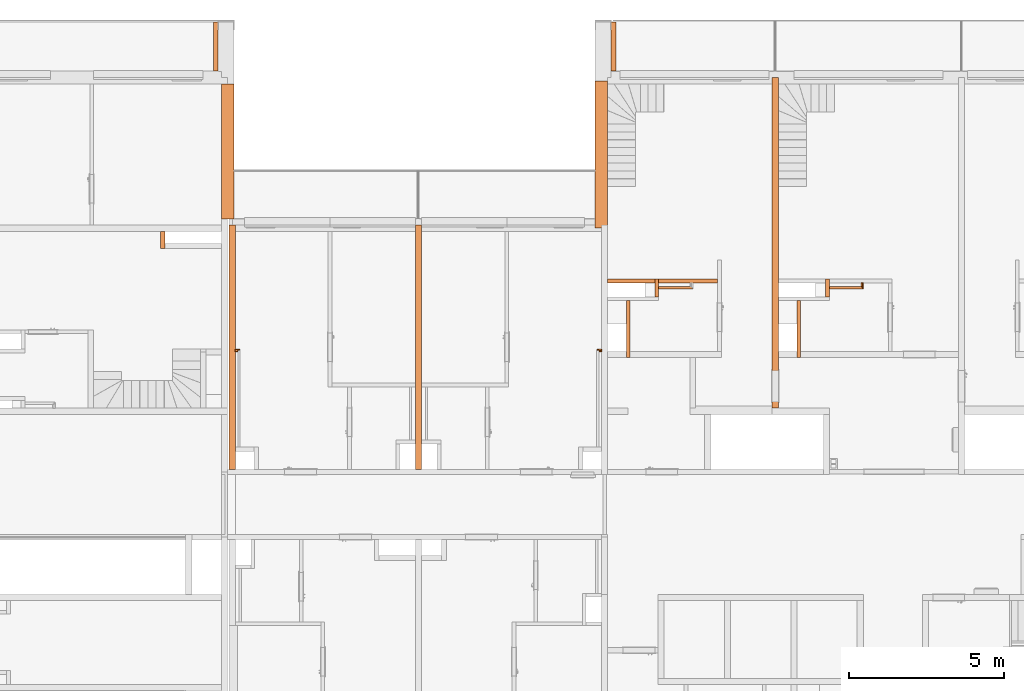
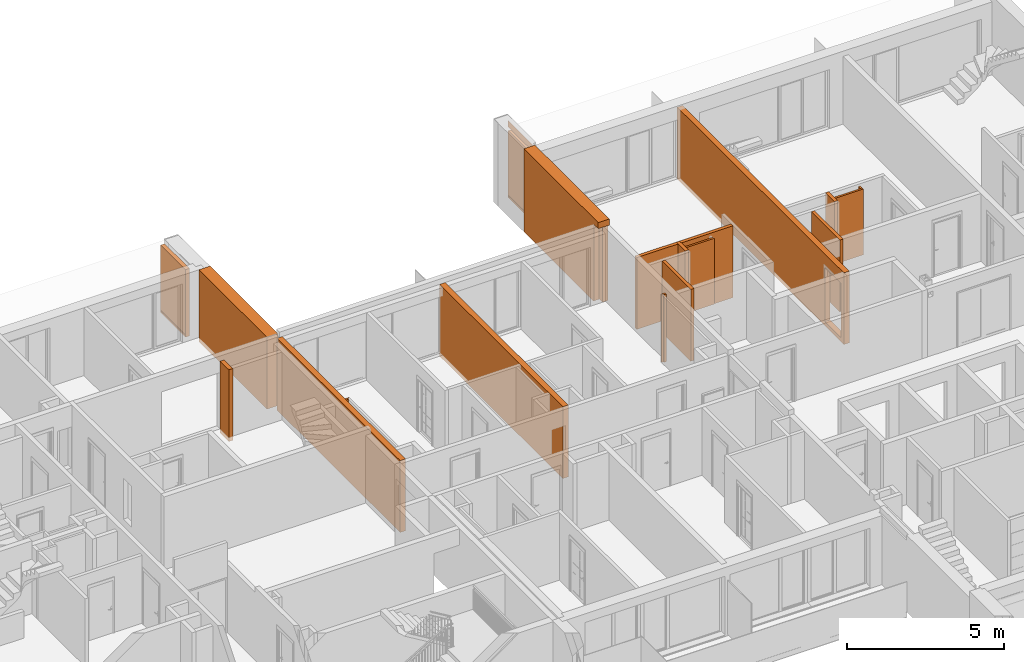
# One storey, part 56 of 61: 18 proxies, 1 opening.
"""IFC2X3 building model written with IfcOpenShell, lengths in millimetres."""

import ifcopenshell
import ifcopenshell.guid

model = None  # the IFC model being written
_history = None  # IfcOwnerHistory: only IFC2X3 demands one
_inside = {}  # id of a spatial element -> (the spatial element, [elements in it])
_under = {}  # id of a project, library or spatial element -> (it, [spatial elements below it])
_declared = {}  # id of a project -> (the project, [libraries it declares])
_typed = {}  # id of a type object -> (the type object, [elements of that type])
_made_of = {}  # id of a material, layer set ... -> (it, [elements and type objects made of it])


def new_model(schema):
    """Start an empty IFC model of exactly this schema.

    Asked for "IFC4X3", IfcOpenShell would pick the latest addendum, in which some entities
    have other attributes; the version numbers below select the first issue.
    IFC2X3 requires an IfcOwnerHistory on every rooted entity: one is made here for all.
    """
    global model, _history
    if schema == "IFC4X3":
        model = ifcopenshell.file(schema_version=(4, 3, 0, 0))
    else:
        model = ifcopenshell.file(schema=schema)
    _inside.clear()
    _under.clear()
    _declared.clear()
    _typed.clear()
    _made_of.clear()
    _history = None
    if model.schema == "IFC2X3":
        org = make("IfcOrganization", Name="unknown")
        user = make(
            "IfcPersonAndOrganization",
            ThePerson=make("IfcPerson", FamilyName="unknown"),
            TheOrganization=org,
        )
        app = make(
            "IfcApplication",
            ApplicationDeveloper=org,
            Version="unknown",
            ApplicationFullName="unknown",
            ApplicationIdentifier="unknown",
        )
        _history = make(
            "IfcOwnerHistory",
            OwningUser=user,
            OwningApplication=app,
            ChangeAction="ADDED",
            CreationDate=0,
        )
    return model


def make(cls, **values):
    """One entity of the class cls with the attributes given. An attribute that is None is left unset."""
    return model.create_entity(
        cls, **{name: value for name, value in values.items() if value is not None}
    )


def entity(cls, *values):
    """Any entity or typed value of the class cls, its attributes in the order of the schema. None: left unset."""
    e = model.create_entity(cls)
    for i, value in enumerate(values):
        if value is not None:
            e[i] = value
    return e


def rooted(cls, **values):
    """An entity with a GlobalId (a new one), such as an element, a storey or a relation."""
    return make(cls, GlobalId=ifcopenshell.guid.new(), OwnerHistory=_history, **values)


def si_unit(unit_type, name, prefix=None):
    """IfcSIUnit, for example si_unit("LENGTHUNIT", "METRE", prefix="MILLI")."""
    return make("IfcSIUnit", UnitType=unit_type, Prefix=prefix, Name=name)


def converted_unit(unit_type, name, factor, base, dimensions=None, offset=None):
    """IfcConversionBasedUnit, such as the inch: factor (a typed value) times the base unit."""
    return make(
        "IfcConversionBasedUnit"
        if offset is None
        else "IfcConversionBasedUnitWithOffset",
        ConversionOffset=offset,
        Dimensions=None
        if dimensions is None
        else entity("IfcDimensionalExponents", *dimensions),
        UnitType=unit_type,
        Name=name,
        ConversionFactor=make(
            "IfcMeasureWithUnit", ValueComponent=factor, UnitComponent=base
        ),
    )


def derived_unit(unit_type, elements):
    """IfcDerivedUnit: a product of units, each with its exponent."""
    return make(
        "IfcDerivedUnit",
        Elements=[
            make("IfcDerivedUnitElement", Unit=unit, Exponent=power)
            for unit, power in elements
        ],
        UnitType=unit_type,
    )


def money_unit(currency):
    """IfcMonetaryUnit."""
    return make("IfcMonetaryUnit", Currency=currency)


def assignment(units):
    """IfcUnitAssignment: the units of a project."""
    return None if units is None else make("IfcUnitAssignment", Units=units)


def point(xyz):
    """IfcCartesianPoint."""
    return None if xyz is None else make("IfcCartesianPoint", Coordinates=xyz)


def direction(xyz):
    """IfcDirection."""
    return None if xyz is None else make("IfcDirection", DirectionRatios=xyz)


def frame(location, z_axis=None, x_axis=None):
    """IfcAxis2Placement3D, a coordinate frame: its origin and axes. An axis left out is left unset."""
    return make(
        "IfcAxis2Placement3D",
        Location=point(location),
        Axis=direction(z_axis),
        RefDirection=direction(x_axis),
    )


def frame_2d(location, x_axis=None):
    """IfcAxis2Placement2D, a coordinate frame in the plane: its origin and x axis."""
    return make(
        "IfcAxis2Placement2D", Location=point(location), RefDirection=direction(x_axis)
    )


def origin_with_axes():
    """The frame at (0, 0, 0) with the z axis (0, 0, 1) and the x axis (1, 0, 0) written out."""
    return frame((0.0, 0.0, 0.0), z_axis=(0.0, 0.0, 1.0), x_axis=(1.0, 0.0, 0.0))


def origin_2d_with_axis():
    """The frame at (0, 0) in the plane with the x axis (1, 0) written out."""
    return frame_2d((0.0, 0.0), x_axis=(1.0, 0.0))


def place(relative_to, where):
    """IfcLocalPlacement: puts the frame where relative to a parent placement (None: the world)."""
    return make(
        "IfcLocalPlacement", PlacementRelTo=relative_to, RelativePlacement=where
    )


def context(
    kind, dimensions, precision=None, world=None, true_north=None, identifier=None
):
    """IfcGeometricRepresentationContext, for example the 3D "Model" context."""
    return make(
        "IfcGeometricRepresentationContext",
        ContextIdentifier=identifier,
        ContextType=kind,
        CoordinateSpaceDimension=dimensions,
        Precision=precision,
        WorldCoordinateSystem=world,
        TrueNorth=true_north,
    )


def subcontext(parent, identifier, kind, view, scale=None):
    """IfcGeometricRepresentationSubContext, for example "Body" below "Model"."""
    return make(
        "IfcGeometricRepresentationSubContext",
        ContextIdentifier=identifier,
        ContextType=kind,
        ParentContext=parent,
        TargetScale=scale,
        TargetView=view,
    )


def project(units=None, contexts=None):
    """IfcProject with its units and contexts."""
    return rooted(
        "IfcProject",
        Name="project",
        RepresentationContexts=contexts,
        UnitsInContext=assignment(units),
    )


def spatial(cls, under=None, at=None, **own):
    """A site, building, storey or space (cls), placed at a placement, below another one or the project."""
    s = rooted(cls, ObjectPlacement=at, **own)
    if under is not None:
        _under.setdefault(under.id(), (under, []))[1].append(s)
    return s


def profile(cls, at=None, kind="AREA", **sizes):
    """A parametric profile (cls). Its sizes go by their IFC names, for example OverallWidth=200.0."""
    return make(cls, ProfileType=kind, Position=at, **sizes)


def rectangle(**sizes):
    """IfcRectangleProfileDef."""
    return profile("IfcRectangleProfileDef", **sizes)


def extrude(swept, where, along, depth):
    """IfcExtrudedAreaSolid: the profile swept, set in the frame where, extruded along a direction by depth."""
    return make(
        "IfcExtrudedAreaSolid",
        SweptArea=swept,
        Position=where,
        ExtrudedDirection=direction(along),
        Depth=depth,
    )


def faces_of(points, faces, orient=None, outer=None):
    """IfcFace entities. A face is a list of loops; a loop is a list of indices into points, from 0.

    orient and outer hold one flag for each loop. By default every Orientation is true, the
    first loop of a face is its IfcFaceOuterBound and the others are IfcFaceBound.
    """
    made = []
    for i, loops in enumerate(faces):
        bounds = []
        for j, loop in enumerate(loops):
            is_outer = j == 0 if outer is None else outer[i][j]
            bounds.append(
                make(
                    "IfcFaceOuterBound" if is_outer else "IfcFaceBound",
                    Bound=make("IfcPolyLoop", Polygon=[points[k] for k in loop]),
                    Orientation=True if orient is None else orient[i][j],
                )
            )
        made.append(make("IfcFace", Bounds=bounds))
    return made


def faceted_brep(points, faces, orient=None, outer=None, voids=None):
    """IfcFacetedBrep: a solid bounded by flat faces; with voids (closed shells), ...WithVoids."""
    shared = [point(p) for p in points]
    hull = make("IfcClosedShell", CfsFaces=faces_of(shared, faces, orient, outer))
    if voids is None:
        return make("IfcFacetedBrep", Outer=hull)
    return make(
        "IfcFacetedBrepWithVoids",
        Outer=hull,
        Voids=[
            make(cls, CfsFaces=faces_of(shared, fs, o, b)) for cls, fs, o, b in voids
        ],
    )


def shape(context_of_items, identifier, shape_type, items):
    """IfcShapeRepresentation: the items that make up one representation, for example the "Body"."""
    return make(
        "IfcShapeRepresentation",
        ContextOfItems=context_of_items,
        RepresentationIdentifier=identifier,
        RepresentationType=shape_type,
        Items=items,
    )


def material(Name=None, Category=None):
    """IfcMaterial."""
    return make("IfcMaterial", Name=Name, Category=Category)


def material_list(materials):
    """IfcMaterialList."""
    return make("IfcMaterialList", Materials=materials)


def made_of(thing, what):
    """Note that an element or type object is made of a material, layer set ...; save() writes the relation."""
    if what is not None:
        _made_of.setdefault(what.id(), (what, []))[1].append(thing)
    return thing


def type_object(cls, material=None, **own):
    """A type object (cls), such as IfcWallType, which elements share."""
    return made_of(rooted(cls, **own), material)


def element(
    cls,
    number,
    at=None,
    inside=None,
    cuts=None,
    type_object=None,
    material=None,
    context=None,
    identifier="Body",
    shape_type=None,
    held_by="IfcProductDefinitionShape",
    body=None,
    shapes=None,
    **own,
):
    """One element of the class cls, such as IfcWall. Its Tag is "e" and its number.

    at: its placement. inside: the storey or other place that contains it. cuts: it is an
    opening in that element (IfcRelVoidsElement). A single representation is given by context,
    identifier, shape_type and body (its items); several are given by shapes. held_by: the class
    of the entity that holds the representations. save() writes the other relations.
    """
    e = rooted(cls, Tag="e%d" % number, ObjectPlacement=at, **own)
    if body is not None:
        shapes = [shape(context, identifier, shape_type, body)]
    if shapes is not None:
        e.Representation = make(held_by, Representations=shapes)
    if inside is not None:
        _inside.setdefault(inside.id(), (inside, []))[1].append(e)
    if cuts is not None:
        rooted(
            "IfcRelVoidsElement", RelatingBuildingElement=cuts, RelatedOpeningElement=e
        )
    if type_object is not None:
        _typed.setdefault(type_object.id(), (type_object, []))[1].append(e)
    return made_of(e, material)


def aggregate(whole, parts):
    """IfcRelAggregates: a whole, such as a stair, and the parts it consists of."""
    return rooted("IfcRelAggregates", RelatingObject=whole, RelatedObjects=parts)


def save(model, path):
    """Write the relations noted so far, then the file.

    IfcRelAggregates (storeys below a building ...), IfcRelContainedInSpatialStructure (elements
    in a storey), IfcRelDefinesByType, IfcRelAssociatesMaterial and IfcRelDeclares: one each for
    every whole, place, type object, material and project.
    """
    for whole, parts in _under.values():
        aggregate(whole, parts)
    for where, things in _inside.values():
        rooted(
            "IfcRelContainedInSpatialStructure",
            RelatedElements=things,
            RelatingStructure=where,
        )
    for kind, things in _typed.values():
        rooted("IfcRelDefinesByType", RelatedObjects=things, RelatingType=kind)
    for what, things in _made_of.values():
        rooted("IfcRelAssociatesMaterial", RelatedObjects=things, RelatingMaterial=what)
    for by, libraries in _declared.values():
        rooted("IfcRelDeclares", RelatingContext=by, RelatedDefinitions=libraries)
    model.write(path)


model = new_model("IFC2X3")

# Units and contexts
model_context = context("Model", 3, precision=0.01, world=origin_with_axes(), true_north=direction((0.34421633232, 0.938890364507)))
body_context = subcontext(model_context, "Body", "Model", "MODEL_VIEW")
ifc_project = project(units=[si_unit("LENGTHUNIT", "METRE", prefix="MILLI"), si_unit("AREAUNIT", "SQUARE_METRE"), si_unit("VOLUMEUNIT", "CUBIC_METRE"), converted_unit("PLANEANGLEUNIT", "DEGREE", entity("IfcPlaneAngleMeasure", 0.0174532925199), si_unit("PLANEANGLEUNIT", "RADIAN"), dimensions=[0, 0, 0, 0, 0, 0, 0]), si_unit("SOLIDANGLEUNIT", "STERADIAN"), money_unit("USD"), converted_unit("TIMEUNIT", "Year", entity("IfcTimeMeasure", 31556926.0), si_unit("TIMEUNIT", "SECOND"), dimensions=[0, 0, 1, 0, 0, 0, 0]), si_unit("MASSUNIT", "GRAM", prefix="KILO"), si_unit("THERMODYNAMICTEMPERATUREUNIT", "DEGREE_CELSIUS"), si_unit("LUMINOUSINTENSITYUNIT", "LUMEN"), si_unit("ENERGYUNIT", "JOULE", prefix="MEGA"), derived_unit("THERMALCONDUCTANCEUNIT", [(si_unit("POWERUNIT", "WATT"), 1), (si_unit("LENGTHUNIT", "METRE"), -1), (si_unit("THERMODYNAMICTEMPERATUREUNIT", "KELVIN"), -1)]), derived_unit("SPECIFICHEATCAPACITYUNIT", [(si_unit("ENERGYUNIT", "JOULE"), 1), (si_unit("MASSUNIT", "GRAM", prefix="KILO"), -1), (si_unit("THERMODYNAMICTEMPERATUREUNIT", "KELVIN"), -1)]), derived_unit("MASSDENSITYUNIT", [(si_unit("MASSUNIT", "GRAM", prefix="KILO"), 1), (si_unit("VOLUMEUNIT", "CUBIC_METRE"), -1)])], contexts=[model_context])

# Site, building, storey
site_placement = place(None, origin_with_axes())
site = spatial("IfcSite", under=ifc_project, at=site_placement, Name="USTRONIE MORSKIE", CompositionType="ELEMENT")
building_placement = place(site_placement, origin_with_axes())
building = spatial("IfcBuilding", under=site, at=building_placement, Name="Budynek", CompositionType="ELEMENT")
storey_placement = place(building_placement, frame((0.0, 0.0, 13000.0), z_axis=(0.0, 0.0, 1.0), x_axis=(1.0, 0.0, 0.0)))
storey = spatial("IfcBuildingStorey", under=building, at=storey_placement, Name="PIĘTRO 4", CompositionType="ELEMENT", Elevation=13000.0)

# Proxies
ifc_material_1 = material(Name="Bloczki silikatowe")
building_element_proxy_type_1 = type_object("IfcBuildingElementProxyType", Name="Bloczki silikatowe 120", PredefinedType="NOTDEFINED")
for number, where, z_axis, x_axis, name in (
    (1, (386497.920919, 743001.199021, -160.0), (0.0, 0.0, 1.0), (0.0, -1.0, 0.0), "SW-04"),
    (2, (380997.920919, 743001.199021, -160.0), (0.0, 0.0, 1.0), (0.0, -1.0, 0.0), "SW-04"),
):
    element("IfcBuildingElementProxy", number, at=place(storey_placement, frame(where, z_axis=z_axis, x_axis=x_axis)), inside=storey, type_object=building_element_proxy_type_1, material=ifc_material_1, Name=name, context=body_context, shape_type="Brep", body=[
        faceted_brep([(509.999084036, 60.0, 0.0), (509.999084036, -60.0, 0.0), (-59.9999999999, -60.0, 0.0), (-59.9999999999, 60.0, 0.0), (509.999084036, 60.0, 2800.0), (509.999084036, -60.0, 2800.0), (-59.9999999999, -60.0, 2800.0), (-59.9999999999, 60.0, 2800.0)], [[[0, 1, 2, 3]], [[1, 0, 4, 5]], [[1, 5, 6, 2]], [[7, 3, 2, 6]], [[4, 0, 3, 7]], [[5, 4, 7, 6]]]),
    ])
proxy_1_placement = place(storey_placement, frame((383017.920919, 743001.199021, -160.0), z_axis=(0.0, 0.0, 1.0), x_axis=(-1.0, 0.0, 0.0)))
element("IfcBuildingElementProxy", 3, at=proxy_1_placement, inside=storey, type_object=building_element_proxy_type_1, material=ifc_material_1, Name="SW-04", context=body_context, shape_type="Brep", body=[
    faceted_brep([(3599.99999779, -59.9999999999, 2800.0), (2080.0, -59.9999999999, 2800.0), (2080.0, -59.9999999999, 0.0), (3600.0, -59.9999999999, 0.0), (3599.99999448, 60.0000000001, 2800.0), (2400.00895991, 60.0000000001, 2800.0), (2080.0, 59.9999999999, 2800.0), (2080.0, 59.9999999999, 0.0), (3600.0, 59.9999999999, 0.0)], [[[0, 1, 2, 3]], [[4, 5, 6, 1, 0]], [[2, 1, 6, 7]], [[8, 3, 2, 7]], [[8, 4, 0, 3]], [[7, 6, 5, 4, 8]]]),
    faceted_brep([(1960.0, -59.9999999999, 0.0), (1960.0, -59.9999999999, 2800.0), (60.0, -59.9999999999, 2800.0), (60.0, -59.9999999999, 0.0), (1960.0, 59.9999999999, 0.0), (1960.0, 59.9999999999, 2800.0), (60.0, 59.9999999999, 2800.0), (60.0, 59.9999999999, 0.0)], [[[0, 1, 2, 3]], [[4, 5, 1, 0]], [[5, 6, 2, 1]], [[3, 2, 6, 7]], [[3, 7, 4, 0]], [[7, 6, 5, 4]]]),
])
for number, where, z_axis, x_axis, name in (
    (4, (380077.924326, 742431.199937, -160.0), (0.0, 0.0, 1.0), (0.0, -1.0, 0.0), "SW-04"),
    (5, (385577.924326, 742431.199937, -160.0), (0.0, 0.0, 1.0), (0.0, -1.0, 0.0), "SW-04"),
):
    element("IfcBuildingElementProxy", number, at=place(storey_placement, frame(where, z_axis=z_axis, x_axis=x_axis)), inside=storey, type_object=building_element_proxy_type_1, material=ifc_material_1, Name=name, context=body_context, shape_type="Brep", body=[
        faceted_brep([(1890.00090117, 60.0, 0.0), (1890.00090117, -60.0, 0.0), (59.9999999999, -60.0, 0.0), (59.9999999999, 60.0, 0.0), (1890.00090117, 60.0, 2800.0), (1890.00090117, -60.0, 2800.0), (59.9999999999, -60.0, 2800.0), (59.9999999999, 60.0, 2800.0)], [[[0, 1, 2, 3]], [[1, 0, 4, 5]], [[1, 5, 6, 2]], [[7, 3, 2, 6]], [[4, 0, 3, 7]], [[5, 4, 7, 6]]]),
    ])
ifc_material_2 = material(Name="Tynk zewnętrzny")
ifc_material_3 = material(Name="Wełna ELEW")
ifc_material_4 = material(Name="Beton konstrukcyjny B25")
ifc_material_list_1 = material_list([ifc_material_2, ifc_material_3, ifc_material_4])
building_element_proxy_type_2 = type_object("IfcBuildingElementProxyType", Name="20+20 410", PredefinedType="NOTDEFINED")
proxy_2_placement = place(storey_placement, frame((379317.920919, 744701.213046, -160.0), z_axis=(0.0, 0.0, 1.0), x_axis=(0.0, 1.0, 0.0)))
element("IfcBuildingElementProxy", 6, at=proxy_2_placement, inside=storey, type_object=building_element_proxy_type_2, material=ifc_material_list_1, Name="SZ-01", context=body_context, shape_type="Brep", body=[
    faceted_brep([(99.9862018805, 300.0, 3005.0), (99.9862018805, 300.0, 3000.0), (309.986276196, 300.0, 3000.00000007), (309.986276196, 300.0, 0.0), (4749.98599028, 300.0, 0.0), (4749.98599028, 300.0, 3239.99999792), (0.0, 300.0, 3240.0), (0.0, 300.0, 3005.0), (99.9862018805, 310.0, 3005.0), (99.9862018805, 310.0, 3000.0), (309.986276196, 310.0, 3000.00000007), (309.986276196, 310.0, 0.0), (4749.98599028, 310.0, 0.0), (4749.98599028, 310.0, 3239.99999792), (0.0, 310.0, 3240.0), (0.0, 310.0, 3005.0)], [[[0, 1, 2, 3, 4, 5, 6, 7]], [[1, 0, 8, 9]], [[1, 9, 10, 2]], [[11, 3, 2, 10]], [[4, 3, 11, 12]], [[4, 12, 13, 5]], [[5, 13, 14, 6]], [[15, 7, 6, 14]], [[0, 7, 15, 8]], [[8, 15, 14, 13, 12, 11, 10, 9]]]),
    faceted_brep([(99.9862018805, 100.0, 3005.0), (99.9862018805, 100.0, 3000.0), (299.986276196, 100.0, 3000.00000004), (299.986276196, 100.0, 0.0), (4749.98599028, 100.0, 0.0), (4749.98599028, 100.0, 3239.99999792), (0.0, 100.0, 3240.0), (0.0, 100.0, 3005.0), (99.9862018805, 300.0, 3005.0), (99.9862018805, 300.0, 3000.0), (299.986276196, 300.0, 3000.00000007), (299.986276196, 300.0, 0.0), (4749.98599028, 300.0, 0.0), (4749.98599028, 300.0, 3239.99999792), (0.0, 300.0, 3240.0), (0.0, 300.0, 3005.0)], [[[0, 1, 2, 3, 4, 5, 6, 7]], [[1, 0, 8, 9]], [[1, 9, 10, 2]], [[11, 3, 2, 10]], [[4, 3, 11, 12]], [[4, 12, 13, 5]], [[5, 13, 14, 6]], [[15, 7, 6, 14]], [[0, 7, 15, 8]], [[8, 15, 14, 13, 12, 11, 10, 9]]]),
    faceted_brep([(0.0, -100.0, 3000.0), (100.000114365, -100.0, 3000.0), (100.000114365, -100.0, 0.0), (4749.98599028, -100.0, 0.0), (4749.98599028, -100.0, 3239.99999792), (0.0, -100.0, 3240.0), (99.999885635, 100.0, 3000.0), (0.0, 100.0, 3000.0), (99.999885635, 100.0, 0.0), (4749.98599028, 100.0, 0.0), (4749.98599028, 100.0, 3239.99999792), (0.0, 100.0, 3240.0)], [[[0, 1, 2, 3, 4, 5]], [[6, 1, 0, 7]], [[8, 2, 1, 6]], [[3, 2, 8, 9]], [[3, 9, 10, 4]], [[4, 10, 11, 5]], [[11, 7, 0, 5]], [[8, 6, 7, 11, 10, 9]]]),
])
ifc_material_list_2 = material_list([ifc_material_4, ifc_material_3, ifc_material_2])
proxy_3_placement = place(storey_placement, frame((367067.920919, 745001.199036, -160.0), z_axis=(0.0, 0.0, 1.0), x_axis=(0.0, 1.0, 0.0)))
element("IfcBuildingElementProxy", 7, at=proxy_3_placement, inside=storey, type_object=building_element_proxy_type_2, material=ifc_material_list_2, Name="SZ-01", context=body_context, shape_type="Brep", body=[
    faceted_brep([(4350.0, -100.0, 0.0), (4350.0, -100.0, 2799.99999792), (0.0, -100.0, 2800.0), (0.0, -100.0, 0.0), (4350.0, 100.0, 2799.99999792), (4350.0, 100.0, 0.0), (0.0, 100.0, 2800.0), (0.0, 100.0, 0.0)], [[[0, 1, 2, 3]], [[4, 1, 0, 5]], [[1, 4, 6, 2]], [[2, 6, 7, 3]], [[5, 0, 3, 7]], [[4, 5, 7, 6]]]),
    faceted_brep([(4350.0, -300.0, 0.0), (4350.0, -300.0, 2800.0), (0.0, -300.0, 2800.0), (0.0, -300.0, 0.0), (4350.0, -100.0, 2800.0), (4350.0, -100.0, 0.0), (0.0, -100.0, 2800.0), (0.0, -100.0, 0.0)], [[[0, 1, 2, 3]], [[4, 1, 0, 5]], [[1, 4, 6, 2]], [[2, 6, 7, 3]], [[5, 0, 3, 7]], [[4, 5, 7, 6]]]),
    faceted_brep([(4350.0, -310.0, 0.0), (4350.0, -310.0, 2800.0), (0.0, -310.0, 2800.0), (0.0, -310.0, 0.0), (4350.0, -300.0, 2800.0), (4350.0, -300.0, 0.0), (0.0, -300.0, 2800.0), (0.0, -300.0, 0.0)], [[[0, 1, 2, 3]], [[4, 1, 0, 5]], [[1, 4, 6, 2]], [[2, 6, 7, 3]], [[5, 0, 3, 7]], [[4, 5, 7, 6]]]),
])
ifc_material_5 = material(Name="Płyta GK")
ifc_material_6 = material(Name="-Pustka powietrzna")
ifc_material_list_3 = material_list([ifc_material_5, ifc_material_5, ifc_material_6])
building_element_proxy_type_3 = type_object("IfcBuildingElementProxyType", Name="330-SD GK 2-warstwy 75", PredefinedType="NOTDEFINED")
proxy_4_placement = place(storey_placement, frame((367317.920919, 740771.202288, -180.0), z_axis=(0.0, 0.0, 1.0), x_axis=(1.0, 0.0, 0.0)))
element("IfcBuildingElementProxy", 8, at=proxy_4_placement, inside=storey, type_object=building_element_proxy_type_3, material=ifc_material_list_3, Name="Ściana-009", context=body_context, shape_type="Brep", body=[
    faceted_brep([(242.477950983, 12.5, 165.0), (242.477952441, 25.0, 165.0), (242.477952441, 25.0, 2820.0), (242.477950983, 12.5, 2820.0), (100.000051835, 25.0, 165.0), (100.000052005, 12.5, 165.0), (100.0, 25.0, 2820.00000171), (100.0, 12.5, 2820.00000171)], [[[0, 1, 2, 3]], [[4, 1, 0, 5]], [[1, 4, 6, 2]], [[2, 6, 7, 3]], [[5, 0, 3, 7]], [[4, 5, 7, 6]]]),
    faceted_brep([(229.977949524, 0.0, 165.0), (229.977950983, 12.5, 165.0), (229.977950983, 12.5, 2820.0), (229.977949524, 0.0, 2820.0), (100.000052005, 12.5, 165.0), (100.000052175, 0.0, 165.0), (100.0, 12.5, 2820.00000171), (100.0, 0.0, 2820.00000171)], [[[0, 1, 2, 3]], [[4, 1, 0, 5]], [[1, 4, 6, 2]], [[2, 6, 7, 3]], [[5, 0, 3, 7]], [[4, 5, 7, 6]]]),
    faceted_brep([(179.977943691, -50.0, 180.0), (179.977949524, 0.0, 180.0), (179.977949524, 0.0, 2820.0), (179.977943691, -50.0, 2820.0), (100.000052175, 0.0, 180.0), (100.000052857, -50.0, 180.0), (100.0, 0.0, 2820.00000171), (100.0, -50.0, 2820.00000171)], [[[0, 1, 2, 3]], [[4, 1, 0, 5]], [[1, 4, 6, 2]], [[2, 6, 7, 3]], [[5, 0, 3, 7]], [[4, 5, 7, 6]]]),
])
ifc_material_list_4 = material_list([ifc_material_6, ifc_material_5, ifc_material_5])
proxy_5_placement = place(storey_placement, frame((379317.920919, 740771.202288, -180.0), z_axis=(0.0, 0.0, 1.0), x_axis=(-1.0, 0.0, 0.0)))
element("IfcBuildingElementProxy", 9, at=proxy_5_placement, inside=storey, type_object=building_element_proxy_type_3, material=ifc_material_list_4, Name="Ściana-009", context=body_context, shape_type="Brep", body=[
    faceted_brep([(100.0, 50.0, 180.0), (100.0, 0.0, 180.0), (100.0, 0.0, 2820.0), (100.0, 50.0, 2820.0), (179.977879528, 0.0, 180.0), (179.977879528, 50.0, 180.0), (179.977879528, 0.0, 2820.0), (179.977879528, 50.0, 2820.0)], [[[0, 1, 2, 3]], [[4, 1, 0, 5]], [[1, 4, 6, 2]], [[7, 3, 2, 6]], [[5, 0, 3, 7]], [[4, 5, 7, 6]]]),
    faceted_brep([(100.0, 0.0, 165.0), (100.0, -12.5, 165.0), (100.0, -12.5, 2820.0), (100.0, 0.0, 2820.0), (229.977879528, -12.5, 165.0), (229.977879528, 0.0, 165.0), (229.977879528, -12.5, 2820.0), (229.977879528, 0.0, 2820.0)], [[[0, 1, 2, 3]], [[4, 1, 0, 5]], [[1, 4, 6, 2]], [[7, 3, 2, 6]], [[5, 0, 3, 7]], [[4, 5, 7, 6]]]),
    faceted_brep([(100.0, -12.5, 165.0), (100.0, -25.0, 165.0), (100.0, -25.0, 2820.0), (100.0, -12.5, 2820.0), (242.477879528, -25.0, 165.0), (242.477879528, -12.5, 165.0), (242.477879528, -25.0, 2820.0), (242.477879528, -12.5, 2820.0)], [[[0, 1, 2, 3]], [[4, 1, 0, 5]], [[1, 4, 6, 2]], [[7, 3, 2, 6]], [[5, 0, 3, 7]], [[4, 5, 7, 6]]]),
])
proxy_6_placement = place(storey_placement, frame((387632.920919, 742771.199021, -160.0), z_axis=(0.0, 0.0, 1.0), x_axis=(0.0, 1.0, 0.0)))
element("IfcBuildingElementProxy", 10, at=proxy_6_placement, inside=storey, type_object=building_element_proxy_type_3, material=ifc_material_list_4, Name="Ściana-009", context=body_context, shape_type="Brep", body=[
    faceted_brep([(50.0, 0.0, 160.0), (170.0, 0.0, 160.0), (170.0, 0.0, 2710.0), (50.0, 0.0, 2710.0), (170.0, 50.0, 160.0), (50.0, 50.0, 160.0), (170.0, 50.0, 2710.0), (50.0, 50.0, 2710.0)], [[[0, 1, 2, 3]], [[4, 1, 0, 5]], [[1, 4, 6, 2]], [[2, 6, 7, 3]], [[5, 0, 3, 7]], [[4, 5, 7, 6]]]),
    faceted_brep([(0.0, -12.5, 145.0), (170.0, -12.5, 145.0), (170.0, -12.5, 2710.0), (0.0, -12.5, 2710.0), (170.0, 0.0, 145.0), (0.0, 0.0, 145.0), (170.0, 0.0, 2710.0), (0.0, 0.0, 2710.0)], [[[0, 1, 2, 3]], [[4, 1, 0, 5]], [[1, 4, 6, 2]], [[2, 6, 7, 3]], [[5, 0, 3, 7]], [[4, 5, 7, 6]]]),
    faceted_brep([(-12.5, -25.0, 145.0), (170.0, -25.0, 145.0), (170.0, -25.0, 2710.0), (-12.5, -25.0, 2710.0), (170.0, -12.5, 145.0), (-12.5, -12.5, 145.0), (170.0, -12.5, 2710.0), (-12.5, -12.5, 2710.0)], [[[0, 1, 2, 3]], [[4, 1, 0, 5]], [[1, 4, 6, 2]], [[2, 6, 7, 3]], [[5, 0, 3, 7]], [[4, 5, 7, 6]]]),
])
for number, where, z_axis, x_axis in (
    (11, (382132.920919, 742771.199021, -160.0), (0.0, 0.0, 1.0), (-1.0, 0.0, 0.0)),
    (12, (387632.920919, 742771.199021, -160.0), (0.0, 0.0, 1.0), (-1.0, 0.0, 0.0)),
):
    element("IfcBuildingElementProxy", number, at=place(storey_placement, frame(where, z_axis=z_axis, x_axis=x_axis)), inside=storey, type_object=building_element_proxy_type_3, material=ifc_material_list_3, Name="Ściana-009", context=body_context, shape_type="Brep", body=[
        faceted_brep([(-25.0, 25.0, 145.0), (-25.0, 12.5, 145.0), (-25.0, 12.5, 2710.0), (-25.0, 25.0, 2710.0), (1075.0, 12.5, 145.0), (1075.0, 25.0, 145.0), (1075.0, 12.5, 2710.0), (1075.0, 25.0, 2710.0)], [[[0, 1, 2, 3]], [[4, 1, 0, 5]], [[1, 4, 6, 2]], [[6, 7, 3, 2]], [[5, 0, 3, 7]], [[4, 5, 7, 6]]]),
        faceted_brep([(-12.5, 12.5, 145.0), (-12.5, 0.0, 145.0), (-12.5, 0.0, 2710.0), (-12.5, 12.5, 2710.0), (1075.0, 0.0, 145.0), (1075.0, 12.5, 145.0), (1075.0, 0.0, 2710.0), (1075.0, 12.5, 2710.0)], [[[0, 1, 2, 3]], [[4, 1, 0, 5]], [[1, 4, 6, 2]], [[6, 7, 3, 2]], [[5, 0, 3, 7]], [[4, 5, 7, 6]]]),
        faceted_brep([(0.0, 0.0, 160.0), (0.0, -50.0, 160.0), (0.0, -50.0, 2710.0), (0.0, 0.0, 2710.0), (1075.0, -50.0, 160.0), (1075.0, 0.0, 160.0), (1075.0, -50.0, 2710.0), (1075.0, 0.0, 2710.0)], [[[0, 1, 2, 3]], [[4, 1, 0, 5]], [[1, 4, 6, 2]], [[6, 7, 3, 2]], [[5, 0, 3, 7]], [[4, 5, 7, 6]]]),
    ])
building_element_proxy_type_4 = type_object("IfcBuildingElementProxyType", Name="Bloczki silikatowe 150", PredefinedType="NOTDEFINED")
proxy_7_placement = place(storey_placement, frame((365097.901749, 744701.199036, -160.0), z_axis=(0.0, 0.0, 1.0), x_axis=(0.0, -1.0, 0.0)))
element("IfcBuildingElementProxy", 13, at=proxy_7_placement, inside=storey, type_object=building_element_proxy_type_4, material=ifc_material_1, Name="SW-03", context=body_context, shape_type="Brep", body=[
    faceted_brep([(650.0, -90.0, 2800.0), (650.0, 60.0, 2800.0), (100.000000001, 60.0, 2800.0), (100.000000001, -90.0, 2800.0), (650.0, -90.0, 0.0), (650.0, 60.0, 0.0), (100.000000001, 60.0, 0.0), (100.000000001, -90.0, 0.0)], [[[0, 1, 2, 3]], [[1, 0, 4, 5]], [[1, 5, 6, 2]], [[7, 3, 2, 6]], [[4, 0, 3, 7]], [[5, 4, 7, 6]]]),
])
building_element_proxy_type_5 = type_object("IfcBuildingElementProxyType", Name="Beton konstrukcyjny B25 200", PredefinedType="NOTDEFINED")
proxy_8_placement = place(storey_placement, frame((373317.920919, 744701.206184, -160.0), z_axis=(0.0, 0.0, 1.0), x_axis=(0.0, -1.0, 0.0)))
element("IfcBuildingElementProxy", 14, at=proxy_8_placement, inside=storey, type_object=building_element_proxy_type_5, material=ifc_material_4, Name="SW-01", context=body_context, shape_type="Brep", body=[
    faceted_brep([(-99.9998856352, -100.0, 0.0), (-99.9930637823, -100.0, 2800.0), (-99.9930637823, 100.0, 2800.0), (-100.000114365, 100.0, 0.0), (7770.00714781, -100.0, 0.0), (7770.00714781, -100.0, 2800.0), (7770.00714781, 100.0, 2800.0), (7770.00714781, 100.0, 0.0)], [[[0, 1, 2, 3]], [[4, 5, 1, 0]], [[5, 6, 2, 1]], [[3, 2, 6, 7]], [[0, 3, 7, 4]], [[7, 6, 5, 4]]]),
])

# Proxy, opening
proxy_9_placement = place(storey_placement, frame((384817.920919, 749451.199036, -160.0), z_axis=(0.0, 0.0, 1.0), x_axis=(0.0, -1.0, 0.0)))
proxy_9 = element("IfcBuildingElementProxy", 15, at=proxy_9_placement, inside=storey, type_object=building_element_proxy_type_5, material=ifc_material_4, Name="SW-01", context=body_context, shape_type="Brep", body=[
    faceted_brep([(10550.0, 100.0, 0.0), (10550.0, -100.0, 0.0), (-100.0, -100.0, 0.0), (-100.0, 100.0, 0.0), (10550.0, 100.0, 2800.0), (10550.0, -100.0, 2800.0), (-100.0, -100.0, 2800.0), (-100.0, 100.0, 2800.0)], [[[0, 1, 2, 3]], [[1, 0, 4, 5]], [[1, 5, 6, 2]], [[7, 3, 2, 6]], [[4, 0, 3, 7]], [[5, 4, 7, 6]]]),
])
opening_placement = place(proxy_9_placement, frame((9840.0, 0.0, 160.0), z_axis=(0.0, 0.0, 1.0), x_axis=(1.0, 0.0, 0.0)))
element("IfcOpeningElement", 16, at=opening_placement, cuts=proxy_9, Name="Dw.1", context=body_context, shape_type="SweptSolid", body=[
    extrude(rectangle(XDim=1020.0, YDim=2120.0, at=origin_2d_with_axis()), frame((0.0, -200.0, 1060.0), z_axis=(0.0, -1.0, 0.0), x_axis=(1.0, 0.0, 0.0)), (0.0, 0.0, -1.0), 600.0),
    extrude(rectangle(XDim=1094.0, YDim=2227.0, at=origin_2d_with_axis()), frame((0.0, -100.0, 1113.5), z_axis=(0.0, -1.0, 0.0), x_axis=(1.0, 0.0, 0.0)), (0.0, 0.0, 1.0), 200.0),
    extrude(rectangle(XDim=1094.0, YDim=2227.0, at=origin_2d_with_axis()), frame((0.0, 100.0, 1113.5), z_axis=(0.0, 1.0, 0.0), x_axis=(1.0, 0.0, 0.0)), (0.0, 0.0, 1.0), 200.0),
])

# Proxies
proxy_10_placement = place(storey_placement, frame((367317.920919, 744701.199322, -160.0), z_axis=(0.0, 0.0, 1.0), x_axis=(0.0, -1.0, 0.0)))
element("IfcBuildingElementProxy", 17, at=proxy_10_placement, inside=storey, type_object=building_element_proxy_type_5, material=ifc_material_4, Name="SW-01", context=body_context, shape_type="Brep", body=[
    faceted_brep([(7770.00028591, -100.0, 2800.00000171), (7770.00028591, 100.0, 2800.00000171), (-100.000114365, 100.0, 2800.00000171), (-99.999885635, -100.0, 2800.00000171), (7770.00028591, -100.0, 0.0), (7770.00028591, 100.0, 0.0), (-100.000114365, 100.0, 0.0), (-99.999885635, -100.0, 0.0)], [[[0, 1, 2, 3]], [[1, 0, 4, 5]], [[1, 5, 6, 2]], [[7, 3, 2, 6]], [[4, 0, 3, 7]], [[5, 4, 7, 6]]]),
])
ifc_material_7 = material(Name="Laminat")
building_element_proxy_type_6 = type_object("IfcBuildingElementProxyType", Name="Laminat 150", PredefinedType="NOTDEFINED")
proxy_11_placement = place(storey_placement, frame((379602.787991, 749761.04617, -160.0), z_axis=(0.0, 0.0, 1.0), x_axis=(-9.14543761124e-06, 0.999999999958, 0.0)))
element("IfcBuildingElementProxy", 18, at=proxy_11_placement, inside=storey, type_object=building_element_proxy_type_6, material=ifc_material_7, Name="SW-03", context=body_context, shape_type="Brep", body=[
    faceted_brep([(1589.99981687, 75.0, 2609.99999792), (1589.99971409, 75.0, 9.99999623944), (0.0, 75.0, 9.99999623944), (1.13686837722e-10, 75.0, 2609.99999792), (1547.49980813, 74.9999999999, 14.9999951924), (1572.49971536, 75.0, 14.9999951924), (1572.49971536, 75.0, 109.999995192), (4.99980812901, 74.9999999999, 109.999995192), (4.99980812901, 74.9999999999, 84.9999951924), (1547.49980813, 74.9999999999, 84.9999951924), (1589.99981687, -75.0, 2609.99999792), (1589.99971409, -75.0, 9.99999623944), (0.0, -75.0, 9.99999623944), (1.13686837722e-10, -75.0, 2609.99999792), (1547.49980813, -75.0, 14.9999951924), (1572.49971536, -75.0, 14.9999951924), (1572.49971536, -75.0, 109.999995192), (4.99980812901, -75.0, 109.999995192), (4.99980812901, -75.0, 84.9999951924), (1547.49980813, -75.0, 84.9999951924)], [[[0, 1, 2, 3], [4, 5, 6, 7, 8, 9]], [[10, 11, 1, 0]], [[1, 11, 12, 2]], [[3, 2, 12, 13]], [[10, 0, 3, 13]], [[4, 14, 15, 5]], [[5, 15, 16, 6]], [[6, 16, 17, 7]], [[7, 17, 18, 8]], [[8, 18, 19, 9]], [[9, 19, 14, 4]], [[13, 12, 11, 10], [14, 19, 18, 17, 16, 15]]]),
    faceted_brep([(-1.13686837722e-10, 74.8670717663, 2999.99999792), (0.0, 74.8670717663, 2759.99999792), (1589.99981687, 74.8525305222, 2759.99999792), (1589.99981687, 74.8525305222, 2999.99999792), (0.0, 75.0, 3000.0), (1.13686837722e-10, 75.0, 2759.99999792), (1589.99981687, 75.0, 2759.99999792), (1589.99981687, 75.0, 3000.0)], [[[0, 1, 2, 3]], [[4, 5, 1, 0]], [[5, 6, 2, 1]], [[3, 2, 6, 7]], [[4, 0, 3, 7]], [[7, 6, 5, 4]]]),
])
proxy_12_placement = place(storey_placement, frame((366782.78799, 749761.196429, -160.0), z_axis=(0.0, 0.0, 1.0), x_axis=(-9.14543761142e-06, 0.999999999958, 0.0)))
element("IfcBuildingElementProxy", 19, at=proxy_12_placement, inside=storey, type_object=building_element_proxy_type_6, material=ifc_material_7, Name="SW-03", context=body_context, shape_type="Brep", body=[
    faceted_brep([(1589.99981683, 75.0, 2639.99999792), (1589.99971409, 75.0, 9.99999623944), (0.0, 75.0, 9.99999623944), (0.0, 75.0, 2639.99999792), (1547.49980813, 75.0, 14.9999951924), (1572.49971536, 75.0, 14.9999951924), (1572.49971536, 75.0, 109.999995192), (4.99980812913, 75.0, 109.999995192), (4.99980812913, 75.0, 84.9999951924), (1547.49980813, 75.0, 84.9999951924), (1589.99981683, -75.0, 2639.99999792), (1589.99971409, -75.0, 9.99999623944), (0.0, -74.9999999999, 9.99999623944), (0.0, -75.0, 2639.99999792), (1547.49980813, -75.0, 14.9999951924), (1572.49971536, -75.0, 14.9999951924), (1572.49971536, -75.0, 109.999995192), (4.99980812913, -75.0, 109.999995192), (4.99980812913, -75.0, 84.9999951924), (1547.49980813, -75.0, 84.9999951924)], [[[0, 1, 2, 3], [4, 5, 6, 7, 8, 9]], [[10, 11, 1, 0]], [[1, 11, 12, 2]], [[3, 2, 12, 13]], [[0, 3, 13, 10]], [[4, 14, 15, 5]], [[5, 15, 16, 6]], [[6, 16, 17, 7]], [[7, 17, 18, 8]], [[8, 18, 19, 9]], [[9, 19, 14, 4]], [[13, 12, 11, 10], [14, 19, 18, 17, 16, 15]]]),
])

save(model, "model.ifc")
